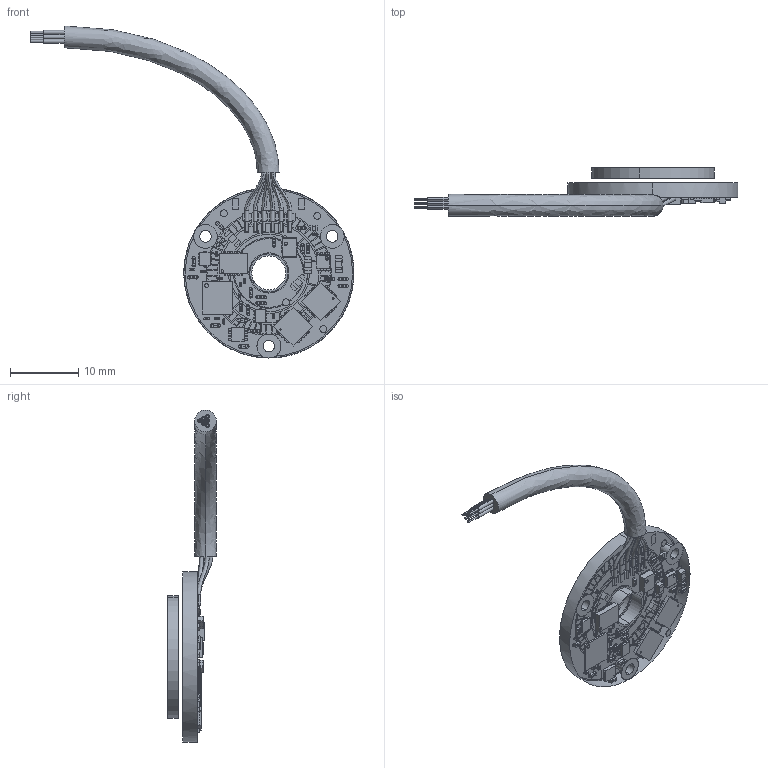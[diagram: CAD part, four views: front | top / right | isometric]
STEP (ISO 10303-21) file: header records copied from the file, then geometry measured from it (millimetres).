
FILE_DESCRIPTION (( 'STEP AP214' ), '1' );
FILE_NAME ('VLP-25 16-3 Hollow rotor.STEP', '2025-03-23T13:35:51', ( '' ), ( '' ), 'SwSTEP 2.0', 'SolidWorks 2022', '' );
FILE_SCHEMA (( 'AUTOMOTIVE_DESIGN' ));
Length unit declared in the file: millimetre
Products named in the file (6): PB-00557-Components_VLP without copper; VLP-25 16-3 Hollow rotor; VLP-25 Rotor_Midshaft custom; VLP-25 cable_Flying leads; VLP-25 Tranceiver_PB-00557; EA-00557_VLP-25
Assembly tree (5 placements, depth 3):
  VLP-25 16-3 Hollow rotor
    EA-00557_VLP-25
      VLP-25 Tranceiver_PB-00557
      PB-00557-Components_VLP without copper
    VLP-25 Rotor_Midshaft custom
    VLP-25 cable_Flying leads
Bounding box: 47.6 x 7.17 x 48.8 mm (x, y, z)
Volume: 1707.2 mm3; surface area: 2806.8 mm2
Topology: 15 solids, 325 shells, 6393 faces, 15769 edges, 10367 vertices
Faces by surface type: plane 3876, cylinder 1175, bspline 1114, sphere 224, torus 4
Entity records: 315885 total; most frequent: CARTESIAN_POINT 99081, ORIENTED_EDGE 30674, DIRECTION 26223, EDGE_CURVE 15353, LINE 10613, VECTOR 10613, VERTEX_POINT 10175, AXIS2_PLACEMENT_3D 7805
